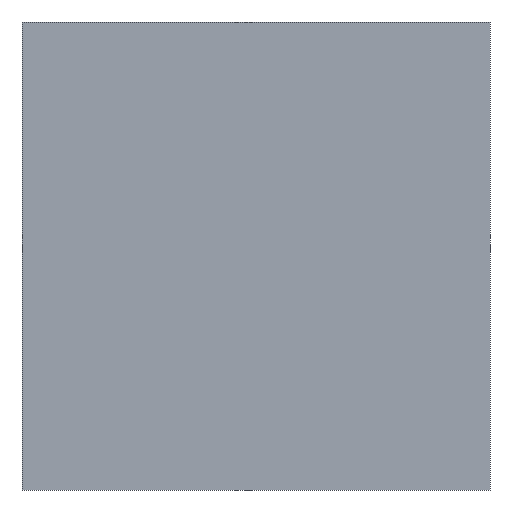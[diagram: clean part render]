
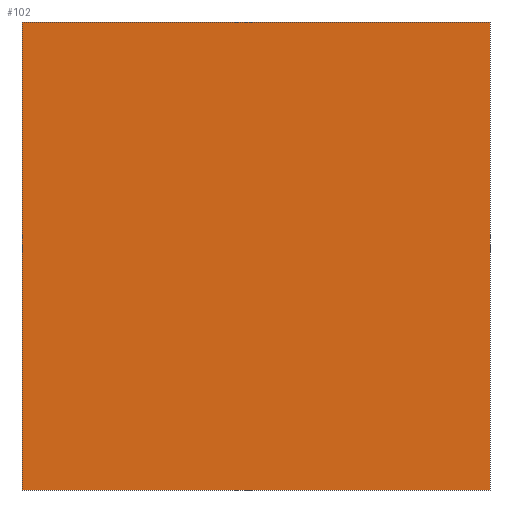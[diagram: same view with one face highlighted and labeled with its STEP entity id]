
A CAD part, front view. The second image highlights one B-rep face of the part: STEP entity #102.
In plain terms, the highlighted planar face has unit normal (0, -1, 0).
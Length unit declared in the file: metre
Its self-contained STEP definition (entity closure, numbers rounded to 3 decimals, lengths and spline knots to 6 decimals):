
#28=ORIENTED_EDGE('',*,*,#38,.F.);
#29=ORIENTED_EDGE('',*,*,#42,.T.);
#30=ORIENTED_EDGE('',*,*,#45,.T.);
#31=ORIENTED_EDGE('',*,*,#47,.F.);
#38=EDGE_CURVE('',#50,#51,#58,.T.);
#42=EDGE_CURVE('',#50,#53,#62,.T.);
#45=EDGE_CURVE('',#53,#55,#65,.T.);
#47=EDGE_CURVE('',#51,#55,#67,.T.);
#50=VERTEX_POINT('',#155);
#51=VERTEX_POINT('',#157);
#53=VERTEX_POINT('',#163);
#55=VERTEX_POINT('',#169);
#58=LINE('',#156,#70);
#62=LINE('',#164,#74);
#65=LINE('',#170,#77);
#67=LINE('',#173,#79);
#70=VECTOR('',#129,1.);
#74=VECTOR('',#135,1.);
#77=VECTOR('',#140,1.);
#79=VECTOR('',#144,1.);
#84=EDGE_LOOP('',(#28,#29,#30,#31));
#90=FACE_BOUND('',#84,.T.);
#96=PLANE('',#121);
#102=ADVANCED_FACE('',(#90),#96,.T.);
#121=AXIS2_PLACEMENT_3D('',#174,#145,#146);
#129=DIRECTION('',(-1.,0.,0.));
#135=DIRECTION('',(0.,0.,1.));
#140=DIRECTION('',(-1.,0.,0.));
#144=DIRECTION('',(0.,0.,1.));
#145=DIRECTION('',(0.,-1.,0.));
#146=DIRECTION('',(1.,0.,0.));
#155=CARTESIAN_POINT('',(0.01,-0.0835,-0.01));
#156=CARTESIAN_POINT('',(0.,-0.0835,-0.01));
#157=CARTESIAN_POINT('',(-0.01,-0.0835,-0.01));
#163=CARTESIAN_POINT('',(0.01,-0.0835,0.01));
#164=CARTESIAN_POINT('',(0.01,-0.0835,0.));
#169=CARTESIAN_POINT('',(-0.01,-0.0835,0.01));
#170=CARTESIAN_POINT('',(0.,-0.0835,0.01));
#173=CARTESIAN_POINT('',(-0.01,-0.0835,0.));
#174=CARTESIAN_POINT('',(0.,-0.0835,0.));
